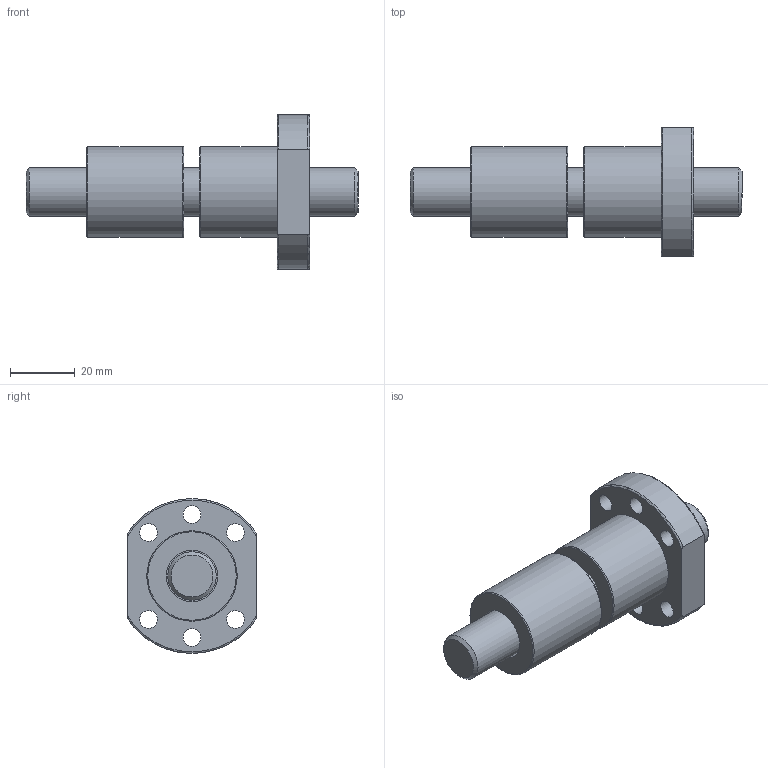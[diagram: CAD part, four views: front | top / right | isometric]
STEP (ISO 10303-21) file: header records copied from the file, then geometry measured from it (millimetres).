
FILE_DESCRIPTION(/* description */ (''),/* implementation_level */ '2;1');
FILE_NAME(/* name */ 'DFS1605',/* time_stamp */ '2007-10-26T13:29:26+08:00',/* author */ (''),/* organization */ (''),/* preprocessor_version */ 'ST-DEVELOPER v9',/* originating_system */ 'UGS - NX 3.0',/* authorisation */ '');
FILE_SCHEMA (('CONFIG_CONTROL_DESIGN'));
Length unit declared in the file: millimetre
Products named in the file (1): jaso15A4i31k
Bounding box: 102.8 x 40 x 48 mm (x, y, z)
Volume: 58091.4 mm3; surface area: 18062.9 mm2
Topology: 3 solids, 3 shells, 32 faces, 67 edges, 43 vertices
Faces by surface type: cylinder 13, plane 10, torus 7, cone 2
Full cylindrical faces by diameter (mm): 5.5 x6, 15 x1, 16 x1, 28 x3
Entity records: 1036 total; most frequent: CARTESIAN_POINT 283, DIRECTION 144, ORIENTED_EDGE 102, AXIS2_PLACEMENT_3D 68, EDGE_LOOP 64, EDGE_CURVE 51, FACE_BOUND 46, VERTEX_POINT 43
